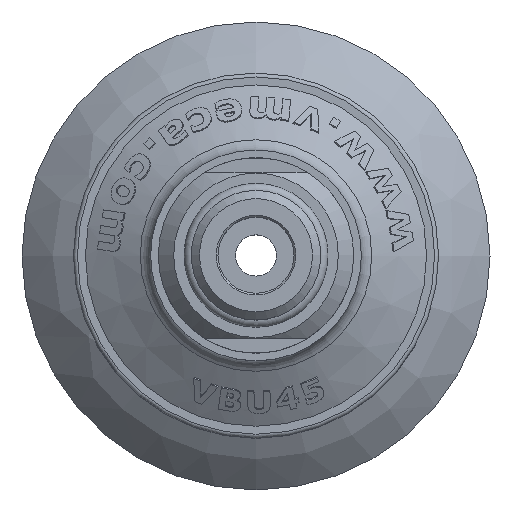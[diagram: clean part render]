
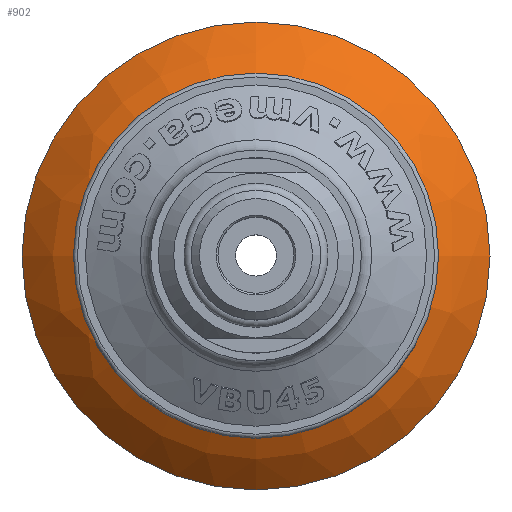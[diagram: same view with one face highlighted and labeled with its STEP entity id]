
A CAD part, top view. The second image highlights one B-rep face of the part: STEP entity #902.
In plain terms, the highlighted free-form (B-spline) face has degree [3, 3] with [4, 7] control points.
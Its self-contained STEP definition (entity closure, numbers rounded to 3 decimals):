
#902 = ADVANCED_FACE( '', ( #1945, #1946 ), #1947, .T. );
#1945 = FACE_OUTER_BOUND( '', #9803, .T. );
#1946 = FACE_OUTER_BOUND( '', #9804, .T. );
#1947 = ( BOUNDED_SURFACE(  )B_SPLINE_SURFACE( 3, 3, ( ( #9807, #9808, #9809, #9810, #9811, #9812, #9813 ), ( #9814, #9815, #9816, #9817, #9818, #9819, #9820 ), ( #9821, #9822, #9823, #9824, #9825, #9826, #9827 ), ( #9828, #9829, #9830, #9831, #9832, #9833, #9834 ) ), .UNSPECIFIED., .F., .T., .F. )B_SPLINE_SURFACE_WITH_KNOTS( ( 4, 4 ), ( 4, 3, 4 ), ( 0., 6.283 ), ( 0.717, 1.004, 1.291 ), .UNSPECIFIED. )GEOMETRIC_REPRESENTATION_ITEM(  )RATIONAL_B_SPLINE_SURFACE( ( ( 1., 0.333, 0.333, 1., 0.333, 0.333, 1. ), ( 0.973, 0.324, 0.324, 0.973, 0.324, 0.324, 0.973 ), ( 0.973, 0.324, 0.324, 0.973, 0.324, 0.324, 0.973 ), ( 1., 0.333, 0.333, 1., 0.333, 0.333, 1. ) ) )REPRESENTATION_ITEM( '' )SURFACE(  ) );
#9803 = EDGE_LOOP( '', ( #13454 ) );
#9804 = EDGE_LOOP( '', ( #13455 ) );
#9807 = CARTESIAN_POINT( '', ( 12.452, 0., -9.198 ) );
#9808 = CARTESIAN_POINT( '', ( 12.452, 24.904, -9.198 ) );
#9809 = CARTESIAN_POINT( '', ( -12.452, 24.904, -9.198 ) );
#9810 = CARTESIAN_POINT( '', ( -12.452, 0., -9.198 ) );
#9811 = CARTESIAN_POINT( '', ( -12.452, -24.904, -9.198 ) );
#9812 = CARTESIAN_POINT( '', ( 12.452, -24.904, -9.198 ) );
#9813 = CARTESIAN_POINT( '', ( 12.452, 0., -9.198 ) );
#9814 = CARTESIAN_POINT( '', ( 16.472, 0., -10.353 ) );
#9815 = CARTESIAN_POINT( '', ( 16.472, 32.943, -10.353 ) );
#9816 = CARTESIAN_POINT( '', ( -16.472, 32.943, -10.353 ) );
#9817 = CARTESIAN_POINT( '', ( -16.472, 0., -10.353 ) );
#9818 = CARTESIAN_POINT( '', ( -16.472, -32.943, -10.353 ) );
#9819 = CARTESIAN_POINT( '', ( 16.472, -32.943, -10.353 ) );
#9820 = CARTESIAN_POINT( '', ( 16.472, 0., -10.353 ) );
#9821 = CARTESIAN_POINT( '', ( 20., 0., -12.598 ) );
#9822 = CARTESIAN_POINT( '', ( 20., 40.001, -12.598 ) );
#9823 = CARTESIAN_POINT( '', ( -20., 40.001, -12.598 ) );
#9824 = CARTESIAN_POINT( '', ( -20., 0., -12.598 ) );
#9825 = CARTESIAN_POINT( '', ( -20., -40.001, -12.598 ) );
#9826 = CARTESIAN_POINT( '', ( 20., -40.001, -12.598 ) );
#9827 = CARTESIAN_POINT( '', ( 20., 0., -12.598 ) );
#9828 = CARTESIAN_POINT( '', ( 22.75, 0., -15.749 ) );
#9829 = CARTESIAN_POINT( '', ( 22.75, 45.5, -15.749 ) );
#9830 = CARTESIAN_POINT( '', ( -22.75, 45.5, -15.749 ) );
#9831 = CARTESIAN_POINT( '', ( -22.75, 0., -15.749 ) );
#9832 = CARTESIAN_POINT( '', ( -22.75, -45.5, -15.749 ) );
#9833 = CARTESIAN_POINT( '', ( 22.75, -45.5, -15.749 ) );
#9834 = CARTESIAN_POINT( '', ( 22.75, 0., -15.749 ) );
#13454 = ORIENTED_EDGE( '', *, *, #15008, .T. );
#13455 = ORIENTED_EDGE( '', *, *, #15009, .F. );
#15008 = EDGE_CURVE( '', #16730, #16730, #16731, .T. );
#15009 = EDGE_CURVE( '', #16732, #16732, #16733, .T. );
#16730 = VERTEX_POINT( '', #23493 );
#16731 = CIRCLE( '', #23494, 22.75 );
#16732 = VERTEX_POINT( '', #23495 );
#16733 = CIRCLE( '', #23496, 12.452 );
#23493 = CARTESIAN_POINT( '', ( 22.75, 0., -15.749 ) );
#23494 = AXIS2_PLACEMENT_3D( '', #24431, #24432, #24433 );
#23495 = CARTESIAN_POINT( '', ( 12.452, 0., -9.198 ) );
#23496 = AXIS2_PLACEMENT_3D( '', #24434, #24435, #24436 );
#24431 = CARTESIAN_POINT( '', ( 0., 0., -15.749 ) );
#24432 = DIRECTION( '', ( 0., 0., 1. ) );
#24433 = DIRECTION( '', ( 1., 0., 0. ) );
#24434 = CARTESIAN_POINT( '', ( 0., 0., -9.198 ) );
#24435 = DIRECTION( '', ( 0., 0., 1. ) );
#24436 = DIRECTION( '', ( 1., 0., 0. ) );
